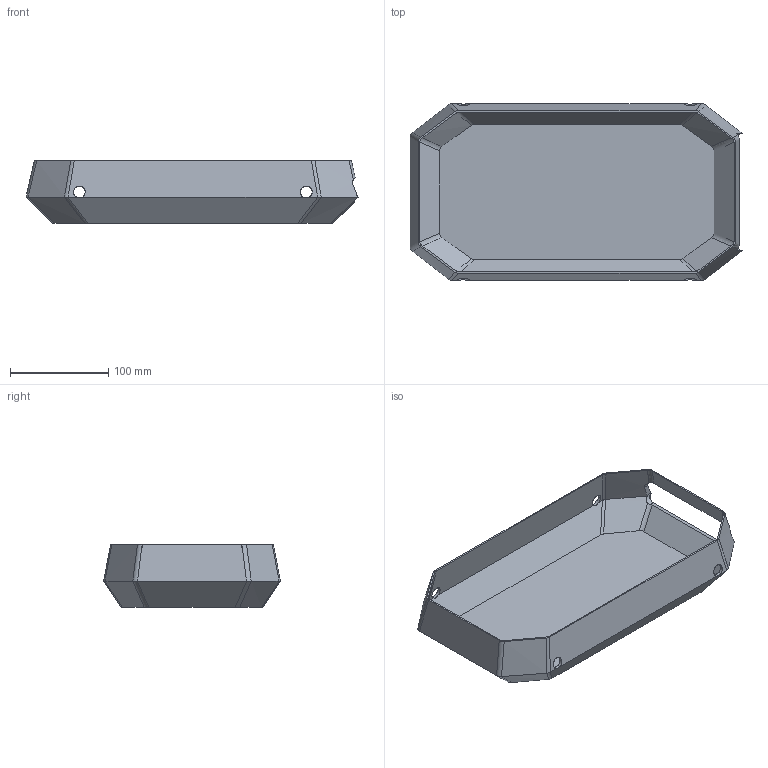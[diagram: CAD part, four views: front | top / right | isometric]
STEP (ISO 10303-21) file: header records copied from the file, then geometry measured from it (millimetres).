
FILE_DESCRIPTION(('Open CASCADE Model'),'2;1');
FILE_NAME('Q4-101','2026-10-05T14:37:11',('Author'),('Open CASCADE'), 'Open CASCADE STEP processor 8.0','build123d','Unknown');
FILE_SCHEMA(('AUTOMOTIVE_DESIGN { 1 0 10303 214 1 1 1 1 }'));
Length unit declared in the file: millimetre
Products named in the file (1): Q4-101
Bounding box: 338.32 x 180 x 64 mm (x, y, z)
Volume: 278825.8 mm3; surface area: 198824.5 mm2
Topology: 1 solids, 1 shells, 81 faces, 238 edges, 150 vertices
Faces by surface type: bspline 66, cylinder 8, plane 7
Full cylindrical faces by diameter (mm): 12 x4
Entity records: 12400 total; most frequent: CARTESIAN_POINT 8462, ORIENTED_EDGE 476, PCURVE 476, DEFINITIONAL_REPRESENTATION 476, DIRECTION 442, B_SPLINE_CURVE_WITH_KNOTS 342, LINE 310, VECTOR 310
